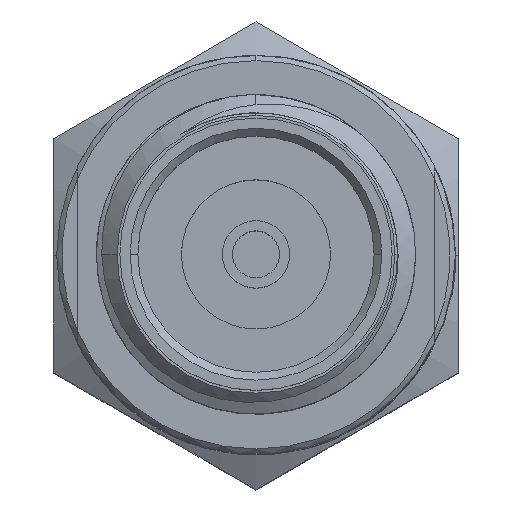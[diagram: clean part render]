
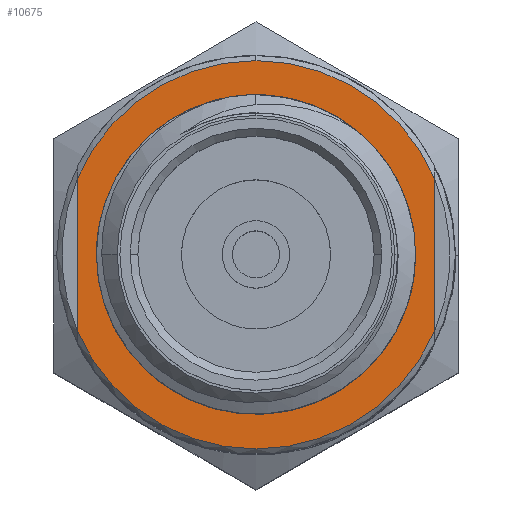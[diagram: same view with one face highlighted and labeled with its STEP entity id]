
A CAD part, top view. The second image highlights one B-rep face of the part: STEP entity #10675.
In plain terms, the highlighted planar face has unit normal (0, 0, 1).
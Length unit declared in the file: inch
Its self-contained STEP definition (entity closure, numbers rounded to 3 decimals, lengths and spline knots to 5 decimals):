
#5 = DIRECTION ( 'NONE',  ( 0., 1., 0. ) ) ;
#803 = ORIENTED_EDGE ( 'NONE', *, *, #9058, .T. ) ;
#877 = CARTESIAN_POINT ( 'NONE',  ( 0., 0., 0.07876 ) ) ;
#1172 = EDGE_CURVE ( 'NONE', #11356, #3027, #4450, .T. ) ;
#1217 = ORIENTED_EDGE ( 'NONE', *, *, #1172, .F. ) ;
#1446 = CARTESIAN_POINT ( 'NONE',  ( 0., 0., 0.07876 ) ) ;
#1532 = CARTESIAN_POINT ( 'NONE',  ( -0.1378, -0.05826, 0.07876 ) ) ;
#1992 = DIRECTION ( 'NONE',  ( 0., 0., -1. ) ) ;
#2196 = DIRECTION ( 'NONE',  ( 0., 0., 1. ) ) ;
#2667 = AXIS2_PLACEMENT_3D ( 'NONE', #12561, #1992, #10141 ) ;
#2777 = AXIS2_PLACEMENT_3D ( 'NONE', #11502, #2196, #11415 ) ;
#2783 = DIRECTION ( 'NONE',  ( 0., -1., 0. ) ) ;
#2809 = CIRCLE ( 'NONE', #17147, 0.14961 ) ;
#2976 = LINE ( 'NONE', #8445, #7928 ) ;
#3027 = VERTEX_POINT ( 'NONE', #7223 ) ;
#3048 = CIRCLE ( 'NONE', #2777, 0.10492 ) ;
#3313 = VERTEX_POINT ( 'NONE', #7498 ) ;
#3323 = ORIENTED_EDGE ( 'NONE', *, *, #8380, .F. ) ;
#3557 = AXIS2_PLACEMENT_3D ( 'NONE', #1446, #12212, #5 ) ;
#3574 = DIRECTION ( 'NONE',  ( 0., 1., 0. ) ) ;
#3765 = CARTESIAN_POINT ( 'NONE',  ( 0., 0.10492, 0.07876 ) ) ;
#4024 = ORIENTED_EDGE ( 'NONE', *, *, #15611, .T. ) ;
#4086 = DIRECTION ( 'NONE',  ( -1., 0., 0. ) ) ;
#4169 = ORIENTED_EDGE ( 'NONE', *, *, #9874, .F. ) ;
#4450 = CIRCLE ( 'NONE', #17063, 0.10492 ) ;
#5324 = AXIS2_PLACEMENT_3D ( 'NONE', #3765, #6769, #4086 ) ;
#5356 = CARTESIAN_POINT ( 'NONE',  ( 0.10492, 0., 0.07876 ) ) ;
#5547 = LINE ( 'NONE', #15056, #7538 ) ;
#6343 = DIRECTION ( 'NONE',  ( 0., 0., -1. ) ) ;
#6521 = ORIENTED_EDGE ( 'NONE', *, *, #11163, .F. ) ;
#6769 = DIRECTION ( 'NONE',  ( 0., 0., -1. ) ) ;
#6931 = FACE_OUTER_BOUND ( 'NONE', #7020, .T. ) ;
#7020 = EDGE_LOOP ( 'NONE', ( #803, #4169, #4024, #6521, #3323 ) ) ;
#7223 = CARTESIAN_POINT ( 'NONE',  ( -0.10492, 0., 0.07876 ) ) ;
#7233 = CIRCLE ( 'NONE', #2667, 0.14961 ) ;
#7498 = CARTESIAN_POINT ( 'NONE',  ( 0.1378, -0.05826, 0.07876 ) ) ;
#7538 = VECTOR ( 'NONE', #2783, 39.37008 ) ;
#7928 = VECTOR ( 'NONE', #13904, 39.37008 ) ;
#8380 = EDGE_CURVE ( 'NONE', #15352, #9817, #7233, .T. ) ;
#8445 = CARTESIAN_POINT ( 'NONE',  ( 0.1378, 0.15354, 0.07876 ) ) ;
#8545 = ORIENTED_EDGE ( 'NONE', *, *, #17203, .F. ) ;
#8568 = CARTESIAN_POINT ( 'NONE',  ( 0., 0., 0.07876 ) ) ;
#8827 = CARTESIAN_POINT ( 'NONE',  ( -0.1378, 0.05826, 0.07876 ) ) ;
#9058 = EDGE_CURVE ( 'NONE', #15352, #12318, #5547, .T. ) ;
#9817 = VERTEX_POINT ( 'NONE', #15815 ) ;
#9874 = EDGE_CURVE ( 'NONE', #3313, #12318, #11276, .T. ) ;
#10141 = DIRECTION ( 'NONE',  ( 0., 1., 0. ) ) ;
#10577 = VERTEX_POINT ( 'NONE', #17223 ) ;
#10675 = ADVANCED_FACE ( 'NONE', ( #10979, #6931 ), #16369, .F. ) ;
#10979 = FACE_BOUND ( 'NONE', #16614, .T. ) ;
#11163 = EDGE_CURVE ( 'NONE', #9817, #10577, #2809, .T. ) ;
#11276 = CIRCLE ( 'NONE', #3557, 0.14961 ) ;
#11356 = VERTEX_POINT ( 'NONE', #5356 ) ;
#11415 = DIRECTION ( 'NONE',  ( 1., 0., 0. ) ) ;
#11502 = CARTESIAN_POINT ( 'NONE',  ( 0., 0., 0.07876 ) ) ;
#12212 = DIRECTION ( 'NONE',  ( 0., 0., -1. ) ) ;
#12318 = VERTEX_POINT ( 'NONE', #1532 ) ;
#12327 = DIRECTION ( 'NONE',  ( 0., 0., 1. ) ) ;
#12561 = CARTESIAN_POINT ( 'NONE',  ( 0., 0., 0.07876 ) ) ;
#13904 = DIRECTION ( 'NONE',  ( 0., 1., 0. ) ) ;
#15056 = CARTESIAN_POINT ( 'NONE',  ( -0.1378, 0.15354, 0.07876 ) ) ;
#15352 = VERTEX_POINT ( 'NONE', #8827 ) ;
#15376 = DIRECTION ( 'NONE',  ( 1., 0., 0. ) ) ;
#15611 = EDGE_CURVE ( 'NONE', #3313, #10577, #2976, .T. ) ;
#15815 = CARTESIAN_POINT ( 'NONE',  ( 0., 0.14961, 0.07876 ) ) ;
#16369 = PLANE ( 'NONE',  #5324 ) ;
#16614 = EDGE_LOOP ( 'NONE', ( #1217, #8545 ) ) ;
#17063 = AXIS2_PLACEMENT_3D ( 'NONE', #8568, #12327, #15376 ) ;
#17147 = AXIS2_PLACEMENT_3D ( 'NONE', #877, #6343, #3574 ) ;
#17203 = EDGE_CURVE ( 'NONE', #3027, #11356, #3048, .T. ) ;
#17223 = CARTESIAN_POINT ( 'NONE',  ( 0.1378, 0.05826, 0.07876 ) ) ;
